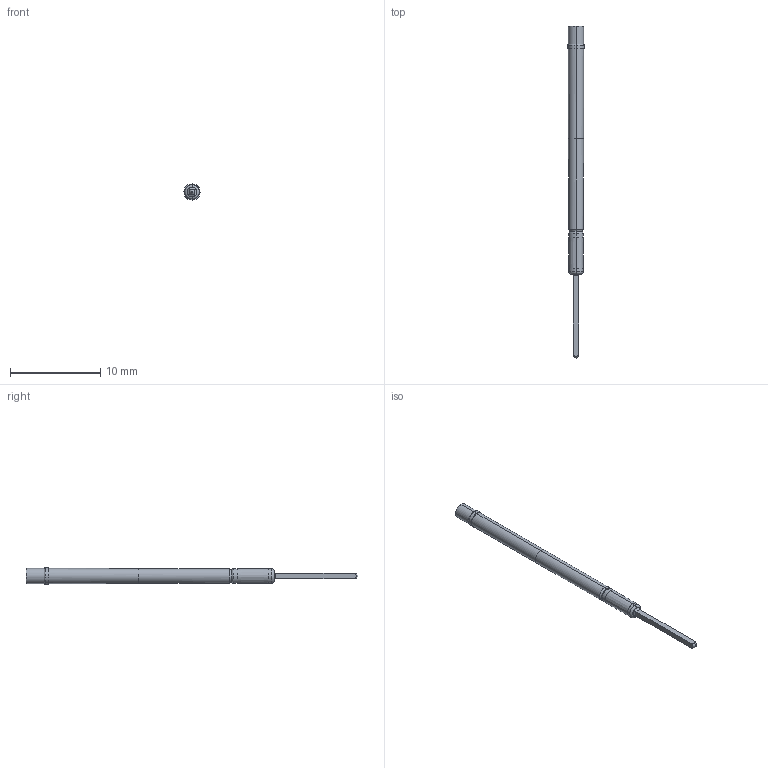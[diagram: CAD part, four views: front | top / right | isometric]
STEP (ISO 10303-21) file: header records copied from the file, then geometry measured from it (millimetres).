
FILE_DESCRIPTION (( 'STEP AP214' ), '1' );
FILE_NAME ('RA4W3.STEP', '2022-09-12T13:49:13', ( '' ), ( '' ), 'SwSTEP 2.0', 'SolidWorks 2022', '' );
FILE_SCHEMA (( 'AUTOMOTIVE_DESIGN' ));
Length unit declared in the file: millimetre
Products named in the file (1): RA4W3
Bounding box: 1.8 x 36.8 x 1.8 mm (x, y, z)
Volume: 62.6 mm3; surface area: 169.3 mm2
Topology: 1 solids, 1 shells, 41 faces, 88 edges, 52 vertices
Faces by surface type: cylinder 20, plane 9, torus 8, cone 4
Entity records: 1276 total; most frequent: CARTESIAN_POINT 366, DIRECTION 192, ORIENTED_EDGE 176, EDGE_CURVE 88, AXIS2_PLACEMENT_3D 82, VERTEX_POINT 52, EDGE_LOOP 44, ADVANCED_FACE 41
